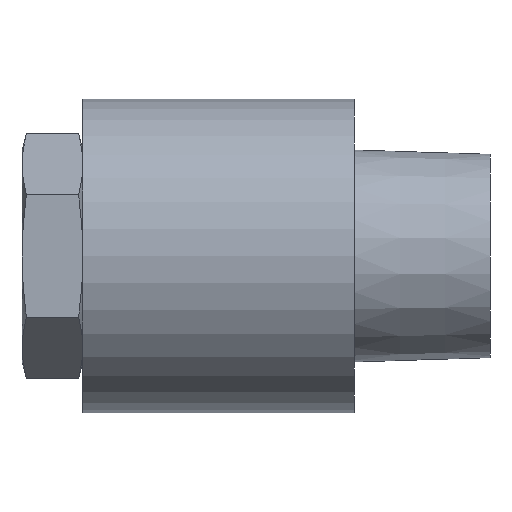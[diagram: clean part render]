
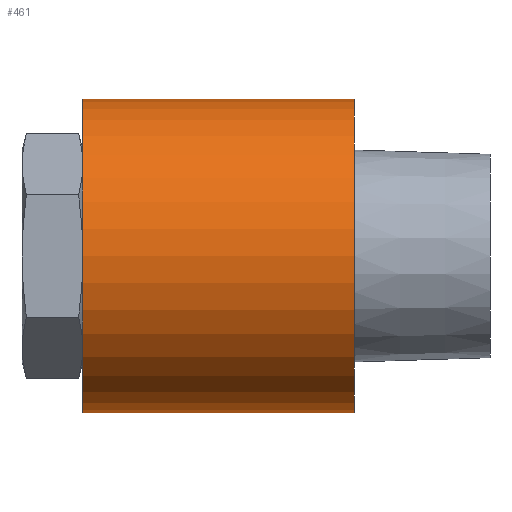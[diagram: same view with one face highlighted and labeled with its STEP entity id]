
A CAD part, left-side view. The second image highlights one B-rep face of the part: STEP entity #461.
In plain terms, the highlighted cylindrical face has radius 12.6 mm (diameter 25.2 mm), a full revolution.
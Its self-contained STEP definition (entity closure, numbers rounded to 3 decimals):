
#61=B_SPLINE_CURVE_WITH_KNOTS('',3,(#711,#712,#713,#714),.UNSPECIFIED.,
 .F.,.F.,(4,4),(0.,0.003),.UNSPECIFIED.);
#62=B_SPLINE_CURVE_WITH_KNOTS('',3,(#717,#718,#719,#720,#721,#722,#723),
 .UNSPECIFIED.,.F.,.F.,(4,1,1,1,4),(0.054,0.057,
0.06,0.064,0.067),.UNSPECIFIED.);
#63=B_SPLINE_CURVE_WITH_KNOTS('',3,(#725,#726,#727,#728),.UNSPECIFIED.,
 .F.,.F.,(4,4),(0.012,0.015),.UNSPECIFIED.);
#64=B_SPLINE_CURVE_WITH_KNOTS('',3,(#730,#731,#732,#733,#734,#735,#736),
 .UNSPECIFIED.,.F.,.F.,(4,1,1,1,4),(0.,0.002,0.005,
0.007,0.01),.UNSPECIFIED.);
#65=B_SPLINE_CURVE_WITH_KNOTS('',3,(#738,#739,#740,#741),.UNSPECIFIED.,
 .F.,.F.,(4,4),(0.,0.003),.UNSPECIFIED.);
#66=B_SPLINE_CURVE_WITH_KNOTS('',3,(#743,#744,#745,#746,#747,#748,#749),
 .UNSPECIFIED.,.F.,.F.,(4,1,1,1,4),(0.024,0.027,
0.03,0.034,0.037),.UNSPECIFIED.);
#67=B_SPLINE_CURVE_WITH_KNOTS('',3,(#751,#752,#753,#754),.UNSPECIFIED.,
 .F.,.F.,(4,4),(0.012,0.015),.UNSPECIFIED.);
#68=B_SPLINE_CURVE_WITH_KNOTS('',3,(#756,#757,#758,#759,#760,#761,#762),
 .UNSPECIFIED.,.F.,.F.,(4,1,1,1,4),(0.,0.002,
0.005,0.007,0.01),
 .UNSPECIFIED.);
#93=ORIENTED_EDGE('',*,*,#223,.F.);
#94=ORIENTED_EDGE('',*,*,#224,.F.);
#95=ORIENTED_EDGE('',*,*,#225,.F.);
#96=ORIENTED_EDGE('',*,*,#226,.F.);
#97=ORIENTED_EDGE('',*,*,#227,.F.);
#98=ORIENTED_EDGE('',*,*,#228,.F.);
#99=ORIENTED_EDGE('',*,*,#229,.F.);
#100=ORIENTED_EDGE('',*,*,#230,.F.);
#101=ORIENTED_EDGE('',*,*,#231,.F.);
#102=ORIENTED_EDGE('',*,*,#232,.T.);
#223=EDGE_CURVE('',#288,#288,#331,.T.);
#224=EDGE_CURVE('',#289,#290,#61,.T.);
#225=EDGE_CURVE('',#291,#289,#62,.T.);
#226=EDGE_CURVE('',#292,#291,#63,.T.);
#227=EDGE_CURVE('',#293,#292,#64,.T.);
#228=EDGE_CURVE('',#294,#293,#65,.T.);
#229=EDGE_CURVE('',#295,#294,#66,.T.);
#230=EDGE_CURVE('',#296,#295,#67,.T.);
#231=EDGE_CURVE('',#290,#296,#68,.T.);
#232=EDGE_CURVE('',#297,#297,#332,.T.);
#288=VERTEX_POINT('',#710);
#289=VERTEX_POINT('',#715);
#290=VERTEX_POINT('',#716);
#291=VERTEX_POINT('',#724);
#292=VERTEX_POINT('',#729);
#293=VERTEX_POINT('',#737);
#294=VERTEX_POINT('',#742);
#295=VERTEX_POINT('',#750);
#296=VERTEX_POINT('',#755);
#297=VERTEX_POINT('',#764);
#331=CIRCLE('',#511,12.6);
#332=CIRCLE('',#512,12.6);
#358=EDGE_LOOP('',(#93));
#359=EDGE_LOOP('',(#94,#95,#96,#97,#98,#99,#100,#101));
#360=EDGE_LOOP('',(#102));
#406=FACE_BOUND('',#358,.T.);
#407=FACE_BOUND('',#359,.T.);
#408=FACE_BOUND('',#360,.T.);
#454=CYLINDRICAL_SURFACE('',#510,12.6);
#461=ADVANCED_FACE('',(#406,#407,#408),#454,.T.);
#510=AXIS2_PLACEMENT_3D('',#708,#575,#576);
#511=AXIS2_PLACEMENT_3D('',#709,#577,#578);
#512=AXIS2_PLACEMENT_3D('',#763,#579,#580);
#575=DIRECTION('',(0.,-1.,0.));
#576=DIRECTION('',(1.,0.,0.));
#577=DIRECTION('',(0.,-1.,0.));
#578=DIRECTION('',(1.,0.,0.));
#579=DIRECTION('',(0.,-1.,0.));
#580=DIRECTION('',(1.,0.,0.));
#708=CARTESIAN_POINT('',(0.,-6.35,0.));
#709=CARTESIAN_POINT('',(0.,5.8,0.));
#710=CARTESIAN_POINT('',(12.6,5.8,0.));
#711=CARTESIAN_POINT('',(11.1,23.372,5.962));
#712=CARTESIAN_POINT('',(10.883,22.541,6.366));
#713=CARTESIAN_POINT('',(10.685,21.676,6.684));
#714=CARTESIAN_POINT('',(10.523,20.775,6.931));
#715=CARTESIAN_POINT('',(11.1,23.372,5.962));
#716=CARTESIAN_POINT('',(10.523,20.775,6.931));
#717=CARTESIAN_POINT('',(11.1,23.372,-5.962));
#718=CARTESIAN_POINT('',(11.526,24.04,-5.17));
#719=CARTESIAN_POINT('',(12.288,25.131,-3.347));
#720=CARTESIAN_POINT('',(12.756,25.759,0.013));
#721=CARTESIAN_POINT('',(12.289,25.132,3.341));
#722=CARTESIAN_POINT('',(11.522,24.035,5.176));
#723=CARTESIAN_POINT('',(11.1,23.372,5.962));
#724=CARTESIAN_POINT('',(11.1,23.372,-5.962));
#725=CARTESIAN_POINT('',(10.523,20.775,-6.931));
#726=CARTESIAN_POINT('',(10.684,21.671,-6.685));
#727=CARTESIAN_POINT('',(10.882,22.537,-6.368));
#728=CARTESIAN_POINT('',(11.1,23.372,-5.962));
#729=CARTESIAN_POINT('',(10.523,20.775,-6.931));
#730=CARTESIAN_POINT('',(10.523,11.825,-6.931));
#731=CARTESIAN_POINT('',(10.248,12.47,-7.347));
#732=CARTESIAN_POINT('',(9.744,13.876,-8.004));
#733=CARTESIAN_POINT('',(9.414,16.287,-8.373));
#734=CARTESIAN_POINT('',(9.742,18.724,-8.006));
#735=CARTESIAN_POINT('',(10.248,20.129,-7.348));
#736=CARTESIAN_POINT('',(10.523,20.775,-6.931));
#737=CARTESIAN_POINT('',(10.523,11.825,-6.931));
#738=CARTESIAN_POINT('',(11.1,9.228,-5.962));
#739=CARTESIAN_POINT('',(10.883,10.059,-6.366));
#740=CARTESIAN_POINT('',(10.685,10.924,-6.684));
#741=CARTESIAN_POINT('',(10.523,11.825,-6.931));
#742=CARTESIAN_POINT('',(11.1,9.228,-5.962));
#743=CARTESIAN_POINT('',(11.1,9.228,5.962));
#744=CARTESIAN_POINT('',(11.522,8.565,5.176));
#745=CARTESIAN_POINT('',(12.286,7.472,3.352));
#746=CARTESIAN_POINT('',(12.756,6.841,0.01));
#747=CARTESIAN_POINT('',(12.292,7.464,-3.333));
#748=CARTESIAN_POINT('',(11.527,8.557,-5.167));
#749=CARTESIAN_POINT('',(11.1,9.228,-5.962));
#750=CARTESIAN_POINT('',(11.1,9.228,5.962));
#751=CARTESIAN_POINT('',(10.523,11.825,6.931));
#752=CARTESIAN_POINT('',(10.685,10.924,6.684));
#753=CARTESIAN_POINT('',(10.886,10.05,6.362));
#754=CARTESIAN_POINT('',(11.1,9.228,5.962));
#755=CARTESIAN_POINT('',(10.523,11.825,6.931));
#756=CARTESIAN_POINT('',(10.523,20.775,6.931));
#757=CARTESIAN_POINT('',(10.248,20.13,7.347));
#758=CARTESIAN_POINT('',(9.744,18.724,8.004));
#759=CARTESIAN_POINT('',(9.414,16.313,8.373));
#760=CARTESIAN_POINT('',(9.742,13.876,8.006));
#761=CARTESIAN_POINT('',(10.248,12.471,7.348));
#762=CARTESIAN_POINT('',(10.523,11.825,6.931));
#763=CARTESIAN_POINT('',(0.,27.6,0.));
#764=CARTESIAN_POINT('',(12.6,27.6,0.));
